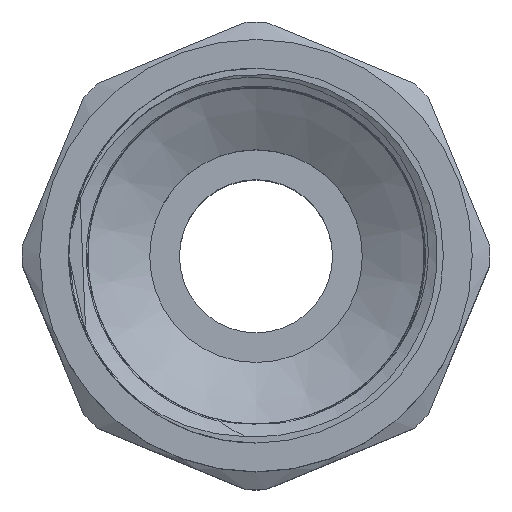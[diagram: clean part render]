
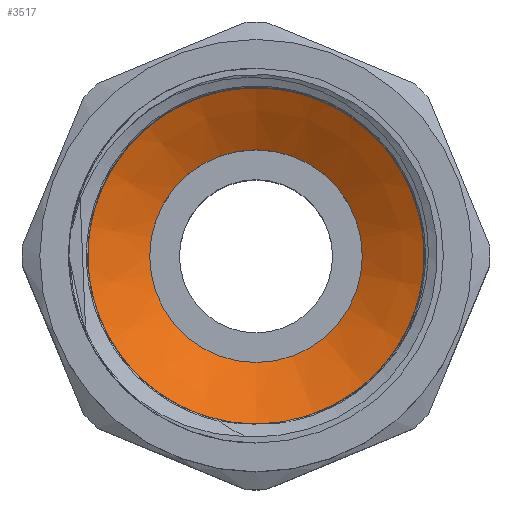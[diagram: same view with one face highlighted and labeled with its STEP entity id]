
A CAD part, top view. The second image highlights one B-rep face of the part: STEP entity #3517.
In plain terms, the highlighted conical face has half-angle 60 degrees and reference radius 10.36 mm.
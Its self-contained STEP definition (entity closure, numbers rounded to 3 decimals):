
#558=FACE_OUTER_BOUND('',#766,.T.);
#766=EDGE_LOOP('',(#3100,#3101,#3102,#3103,#3104,#3105));
#997=LINE('',#7384,#1193);
#1193=VECTOR('',#4375,10.36);
#1310=CIRCLE('',#3756,7.5);
#1311=CIRCLE('',#3757,7.5);
#1312=CIRCLE('',#3759,13.22);
#1313=CIRCLE('',#3760,13.22);
#1662=VERTEX_POINT('',#7377);
#1663=VERTEX_POINT('',#7379);
#1664=VERTEX_POINT('',#7383);
#1665=VERTEX_POINT('',#7385);
#2163=EDGE_CURVE('',#1663,#1662,#1310,.T.);
#2164=EDGE_CURVE('',#1662,#1663,#1311,.T.);
#2165=EDGE_CURVE('',#1662,#1664,#997,.T.);
#2166=EDGE_CURVE('',#1665,#1664,#1312,.T.);
#2167=EDGE_CURVE('',#1664,#1665,#1313,.T.);
#3100=ORIENTED_EDGE('',*,*,#2163,.T.);
#3101=ORIENTED_EDGE('',*,*,#2165,.T.);
#3102=ORIENTED_EDGE('',*,*,#2166,.F.);
#3103=ORIENTED_EDGE('',*,*,#2167,.F.);
#3104=ORIENTED_EDGE('',*,*,#2165,.F.);
#3105=ORIENTED_EDGE('',*,*,#2164,.T.);
#3364=CONICAL_SURFACE('',#3758,10.36,1.047);
#3517=ADVANCED_FACE('',(#558),#3364,.F.);
#3756=AXIS2_PLACEMENT_3D('',#7380,#4369,#4370);
#3757=AXIS2_PLACEMENT_3D('',#7381,#4371,#4372);
#3758=AXIS2_PLACEMENT_3D('',#7382,#4373,#4374);
#3759=AXIS2_PLACEMENT_3D('',#7386,#4376,#4377);
#3760=AXIS2_PLACEMENT_3D('',#7387,#4378,#4379);
#4369=DIRECTION('center_axis',(0.,0.,-1.));
#4370=DIRECTION('ref_axis',(1.,0.,0.));
#4371=DIRECTION('center_axis',(0.,0.,-1.));
#4372=DIRECTION('ref_axis',(1.,0.,0.));
#4373=DIRECTION('center_axis',(0.,0.,1.));
#4374=DIRECTION('ref_axis',(0.,-1.,0.));
#4375=DIRECTION('',(0.,0.866,0.5));
#4376=DIRECTION('center_axis',(0.,0.,-1.));
#4377=DIRECTION('ref_axis',(1.,0.,0.));
#4378=DIRECTION('center_axis',(0.,0.,-1.));
#4379=DIRECTION('ref_axis',(1.,0.,0.));
#7377=CARTESIAN_POINT('',(0.,7.5,29.198));
#7379=CARTESIAN_POINT('',(0.,-7.5,29.198));
#7380=CARTESIAN_POINT('Origin',(0.,0.,29.198));
#7381=CARTESIAN_POINT('Origin',(0.,0.,29.198));
#7382=CARTESIAN_POINT('Origin',(0.,0.,30.849));
#7383=CARTESIAN_POINT('',(0.,13.22,32.5));
#7384=CARTESIAN_POINT('',(0.,10.36,30.849));
#7385=CARTESIAN_POINT('',(0.,-13.22,32.5));
#7386=CARTESIAN_POINT('Origin',(0.,0.,32.5));
#7387=CARTESIAN_POINT('Origin',(0.,0.,32.5));
